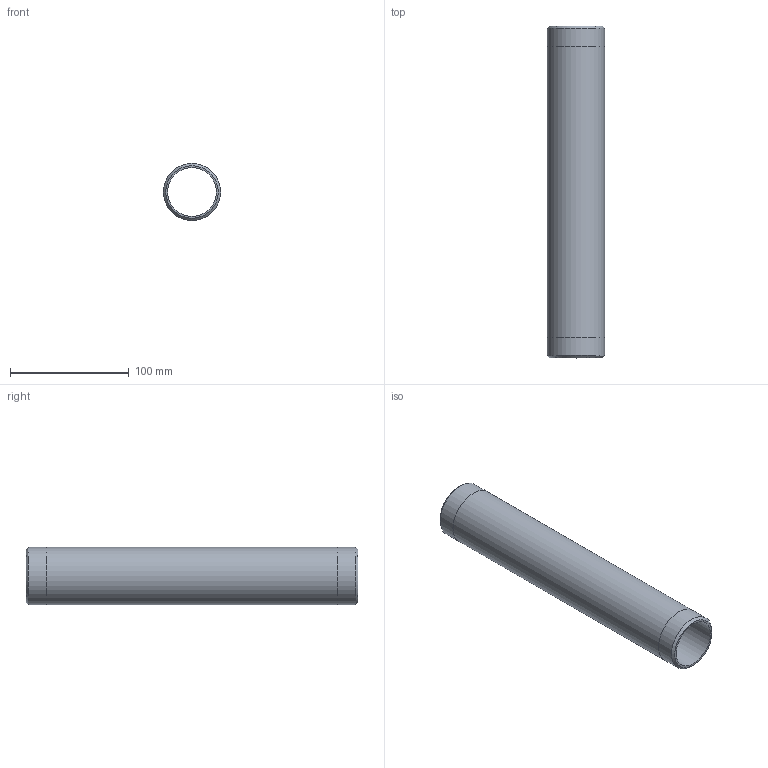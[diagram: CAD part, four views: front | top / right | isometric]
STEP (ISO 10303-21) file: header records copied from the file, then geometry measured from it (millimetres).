
FILE_DESCRIPTION(/* description */ (''),/* implementation_level */ '2;1');
FILE_NAME(/* name */ 'C:/Users/drich/Desktop/SSPN1-1_2-11 v1.step',/* time_stamp */ '2020-01-03T16:20:59-06:00',/* author */ (''),/* organization */ (''),/* preprocessor_version */ 'ST-DEVELOPER v18',/* originating_system */ 'Autodesk Translation Framework v8.12.0.6',/* authorisation */ '');
FILE_SCHEMA (('AUTOMOTIVE_DESIGN { 1 0 10303 214 3 1 1 }'));
Length unit declared in the file: inch
Products named in the file (1): SSPN1-1_2-11
Bounding box: 48.26 x 279.4 x 48.26 mm (x, y, z)
Volume: 143367.3 mm3; surface area: 78910.6 mm2
Topology: 1 solids, 1 shells, 10 faces, 24 edges, 18 vertices
Faces by surface type: cylinder 4, plane 4, cone 2
Full cylindrical faces by diameter (mm): 40.894 x1, 48.209 x2, 48.26 x1
Entity records: 353 total; most frequent: DIRECTION 64, CARTESIAN_POINT 53, ORIENTED_EDGE 48, AXIS2_PLACEMENT_3D 29, EDGE_CURVE 24, CIRCLE 18, VERTEX_POINT 18, EDGE_LOOP 14
